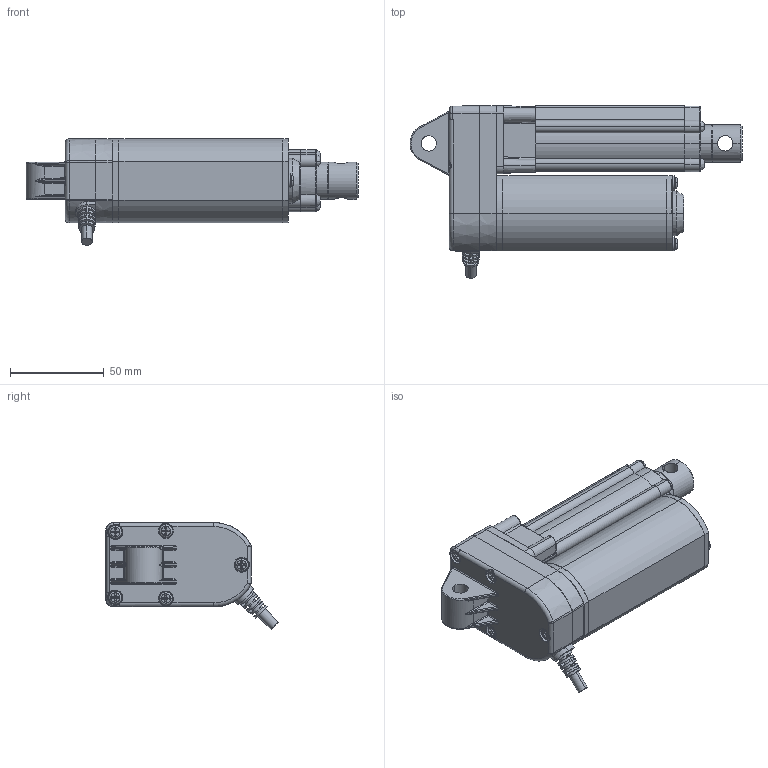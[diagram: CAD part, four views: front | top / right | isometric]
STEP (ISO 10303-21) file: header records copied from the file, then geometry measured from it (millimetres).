
FILE_DESCRIPTION(('STEP AP203'),'1');
FILE_NAME('dj809d150158d0f011r01111111a01230619192857.stp','2025-06-19T19:29:01',('TraceParts'),('TraceParts S.A.'),'Spatial InterOp 3D',' ',' ');
FILE_SCHEMA(('CONFIG_CONTROL_DESIGN'));
Length unit declared in the file: millimetre
Products named in the file (1): 1
Bounding box: 177.11 x 92.14 x 56.99 mm (x, y, z)
Volume: 352169.2 mm3; surface area: 47270.2 mm2
Topology: 1 solids, 1 shells, 743 faces, 1942 edges, 1207 vertices
Faces by surface type: plane 297, cylinder 195, bspline 121, torus 74, cone 45, sphere 11
Entity records: 29262 total; most frequent: CARTESIAN_POINT 11986, ORIENTED_EDGE 3852, DIRECTION 3371, EDGE_CURVE 1926, AXIS2_PLACEMENT_3D 1283, VERTEX_POINT 1207, LINE 805, VECTOR 805
